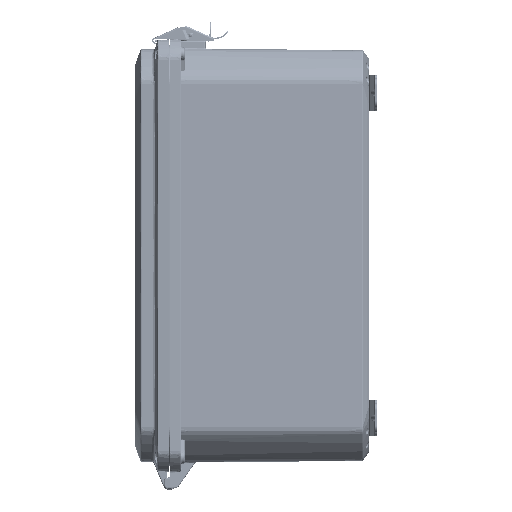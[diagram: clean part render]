
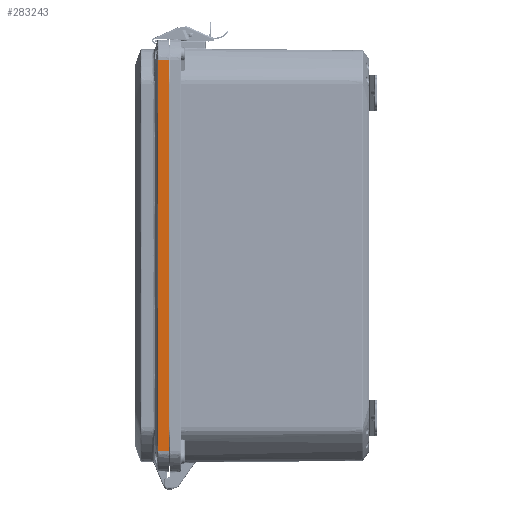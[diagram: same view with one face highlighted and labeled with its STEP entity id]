
A CAD part, left-side view. The second image highlights one B-rep face of the part: STEP entity #283243.
In plain terms, the highlighted planar face has unit normal (-0.999, 0.052, 0).
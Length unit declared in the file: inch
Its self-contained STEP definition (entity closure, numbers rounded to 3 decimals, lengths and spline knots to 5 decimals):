
#1443 = B_SPLINE_CURVE_WITH_KNOTS ( 'NONE', 3,
 ( #59865, #292399, #108548, #226967 ),
 .UNSPECIFIED., .F., .F.,
 ( 4, 4 ),
 ( 0., 1. ),
 .UNSPECIFIED. ) ;
#2370 = EDGE_CURVE ( 'NONE', #149580, #71842, #213972, .T. ) ;
#18873 = CARTESIAN_POINT ( 'NONE',  ( -8.62, 0., 6.89046 ) ) ;
#19440 = DIRECTION ( 'NONE',  ( -0.052, -0.999, 0. ) ) ;
#28544 = VERTEX_POINT ( 'NONE', #76141 ) ;
#29320 = LINE ( 'NONE', #236045, #163052 ) ;
#29613 = VERTEX_POINT ( 'NONE', #256447 ) ;
#36037 = CARTESIAN_POINT ( 'NONE',  ( -8.60091, 0.36425, 0. ) ) ;
#41232 = CARTESIAN_POINT ( 'NONE',  ( -8.60093, 0.36396, 4.59364 ) ) ;
#59865 = CARTESIAN_POINT ( 'NONE',  ( -8.60091, 0.36425, 0. ) ) ;
#60914 = ORIENTED_EDGE ( 'NONE', *, *, #2370, .T. ) ;
#61574 = CARTESIAN_POINT ( 'NONE',  ( -8.60093, 0.36382, -6.89046 ) ) ;
#71209 = EDGE_CURVE ( 'NONE', #189834, #29613, #248952, .T. ) ;
#71842 = VERTEX_POINT ( 'NONE', #36037 ) ;
#76141 = CARTESIAN_POINT ( 'NONE',  ( -8.62, 0., 6.89046 ) ) ;
#86492 = CARTESIAN_POINT ( 'NONE',  ( -8.60093, 0.36382, 6.89046 ) ) ;
#107052 = VECTOR ( 'NONE', #228588, 39.37008 ) ;
#108548 = CARTESIAN_POINT ( 'NONE',  ( -8.60093, 0.36396, -4.59364 ) ) ;
#130579 = EDGE_CURVE ( 'NONE', #149580, #28544, #275665, .T. ) ;
#133999 = CARTESIAN_POINT ( 'NONE',  ( -8.60091, 0.36425, 0. ) ) ;
#135484 = CARTESIAN_POINT ( 'NONE',  ( -8.60093, 0.36382, 6.89046 ) ) ;
#145522 = DIRECTION ( 'NONE',  ( -0.052, -0.999, 0. ) ) ;
#148769 = EDGE_CURVE ( 'NONE', #71842, #189834, #1443, .T. ) ;
#149580 = VERTEX_POINT ( 'NONE', #86492 ) ;
#159316 = VECTOR ( 'NONE', #19440, 39.37008 ) ;
#160529 = ORIENTED_EDGE ( 'NONE', *, *, #148769, .T. ) ;
#163052 = VECTOR ( 'NONE', #234569, 39.37008 ) ;
#172691 = EDGE_LOOP ( 'NONE', ( #60914, #160529, #211047, #173932, #280674 ) ) ;
#173932 = ORIENTED_EDGE ( 'NONE', *, *, #242514, .T. ) ;
#181097 = CARTESIAN_POINT ( 'NONE',  ( -8.60092, 0.3641, 2.29682 ) ) ;
#185597 = DIRECTION ( 'NONE',  ( -0.999, 0.052, 0. ) ) ;
#189834 = VERTEX_POINT ( 'NONE', #61574 ) ;
#191146 = CARTESIAN_POINT ( 'NONE',  ( -8.62, 0., -6.89046 ) ) ;
#211047 = ORIENTED_EDGE ( 'NONE', *, *, #71209, .T. ) ;
#213972 = B_SPLINE_CURVE_WITH_KNOTS ( 'NONE', 3,
 ( #135484, #41232, #181097, #133999 ),
 .UNSPECIFIED., .F., .F.,
 ( 4, 4 ),
 ( 0., 1. ),
 .UNSPECIFIED. ) ;
#226967 = CARTESIAN_POINT ( 'NONE',  ( -8.60093, 0.36382, -6.89046 ) ) ;
#228588 = DIRECTION ( 'NONE',  ( -0.052, -0.999, 0. ) ) ;
#231133 = PLANE ( 'NONE',  #288824 ) ;
#234569 = DIRECTION ( 'NONE',  ( 0., 0., 1. ) ) ;
#236045 = CARTESIAN_POINT ( 'NONE',  ( -8.62, 0., -6.89046 ) ) ;
#238195 = FACE_OUTER_BOUND ( 'NONE', #172691, .T. ) ;
#242514 = EDGE_CURVE ( 'NONE', #29613, #28544, #29320, .T. ) ;
#248952 = LINE ( 'NONE', #250433, #159316 ) ;
#250433 = CARTESIAN_POINT ( 'NONE',  ( -8.62, 0., -6.89046 ) ) ;
#256447 = CARTESIAN_POINT ( 'NONE',  ( -8.62, 0., -6.89046 ) ) ;
#275665 = LINE ( 'NONE', #18873, #107052 ) ;
#280674 = ORIENTED_EDGE ( 'NONE', *, *, #130579, .F. ) ;
#283243 = ADVANCED_FACE ( 'NONE', ( #238195 ), #231133, .T. ) ;
#288824 = AXIS2_PLACEMENT_3D ( 'NONE', #191146, #185597, #145522 ) ;
#292399 = CARTESIAN_POINT ( 'NONE',  ( -8.60092, 0.3641, -2.29682 ) ) ;
